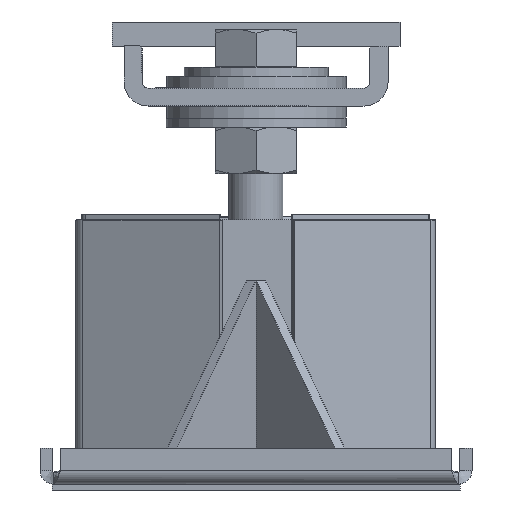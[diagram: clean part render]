
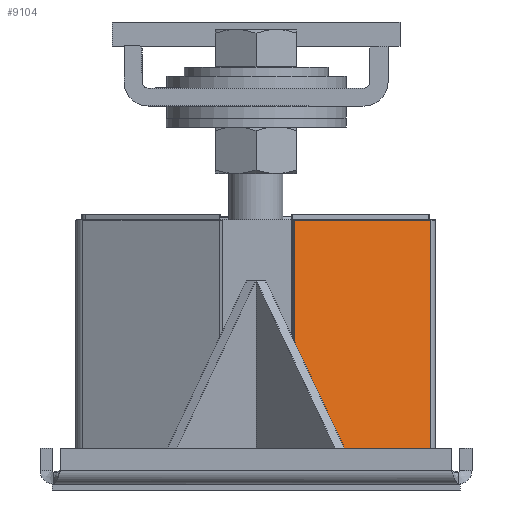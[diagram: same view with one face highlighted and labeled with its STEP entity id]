
A CAD part, left-side view. The second image highlights one B-rep face of the part: STEP entity #9104.
In plain terms, the highlighted planar face has unit normal (-0.899, -0.438, 0) as drawn and (-0.438, -0.899, 0) by its records, which use the part's own axes.
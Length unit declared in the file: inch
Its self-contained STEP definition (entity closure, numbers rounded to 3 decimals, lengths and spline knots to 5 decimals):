
#594=LINE($,#14400,#1284);
#595=LINE($,#14403,#1285);
#606=LINE($,#14430,#1296);
#608=LINE($,#14433,#1298);
#1284=VECTOR($,#11134,3.15723);
#1285=VECTOR($,#11137,5.25);
#1296=VECTOR($,#11162,3.15723);
#1298=VECTOR($,#11166,5.25);
#1900=PLANE($,#9772);
#2621=FACE_OUTER_BOUND($,#3204,.T.);
#3204=EDGE_LOOP($,(#6813,#6814,#6815,#6816));
#4444=VERTEX_POINT($,#14393);
#4447=VERTEX_POINT($,#14398);
#4448=VERTEX_POINT($,#14402);
#4457=VERTEX_POINT($,#14429);
#5342=EDGE_CURVE($,#4444,#4447,#594,.T.);
#5343=EDGE_CURVE($,#4448,#4444,#595,.T.);
#5357=EDGE_CURVE($,#4448,#4457,#606,.T.);
#5359=EDGE_CURVE($,#4447,#4457,#608,.T.);
#6813=ORIENTED_EDGE($,*,*,#5343,.T.);
#6814=ORIENTED_EDGE($,*,*,#5342,.T.);
#6815=ORIENTED_EDGE($,*,*,#5359,.T.);
#6816=ORIENTED_EDGE($,*,*,#5357,.F.);
#9104=ADVANCED_FACE($,(#2621),#1900,.T.);
#9772=AXIS2_PLACEMENT_3D($,#14432,#11164,#11165);
#11134=DIRECTION($,(0.899,-0.438,0.));
#11137=DIRECTION($,(0.,0.,-1.));
#11162=DIRECTION($,(0.899,-0.438,0.));
#11164=DIRECTION('center_axis',(-0.438,-0.899,0.));
#11165=DIRECTION('ref_axis',(0.,0.,1.));
#11166=DIRECTION($,(0.,0.,1.));
#14393=CARTESIAN_POINT('',(-3.64372,0.5189,0.));
#14398=CARTESIAN_POINT('',(-0.80469,-0.8624,0.));
#14400=CARTESIAN_POINT($,(-10.39019,3.80132,0.));
#14402=CARTESIAN_POINT('',(-3.64372,0.5189,5.25));
#14403=CARTESIAN_POINT($,(-3.64372,0.5189,2.625));
#14429=CARTESIAN_POINT('',(-0.80469,-0.8624,5.25));
#14430=CARTESIAN_POINT($,(-10.39019,3.80132,5.25));
#14432=CARTESIAN_POINT('Origin',(-5.59744,1.46946,2.625));
#14433=CARTESIAN_POINT($,(-0.80469,-0.8624,0.));
